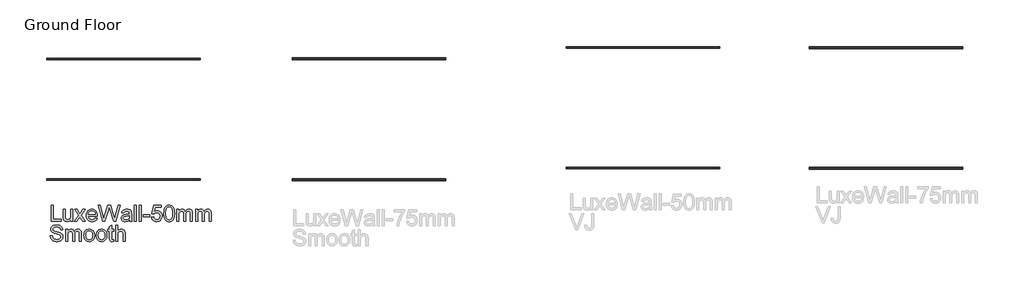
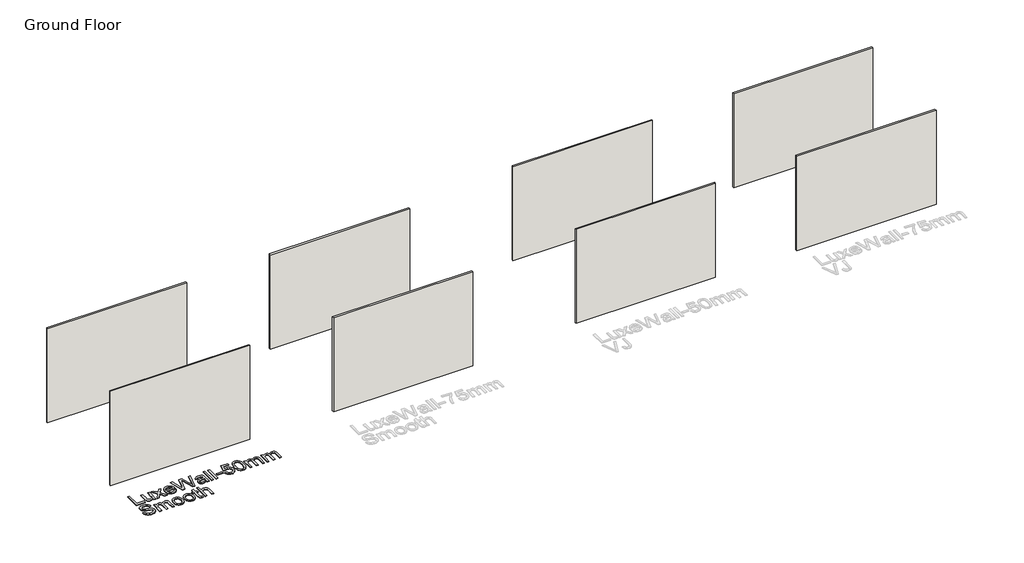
# One storey, part 1 of 3: 8 walls, 1 proxy.
"""IFC4 building model written with IfcOpenShell, lengths in millimetres."""

from ifc_helpers import new_model, si_unit, origin, origin_with_axes, place, context, project, spatial, polyline, outline, extrude, element, save

model = new_model("IFC4")

# Units and contexts
model_context = context("Model", 3, world=origin())
ifc_project = project(units=[si_unit("LENGTHUNIT", "METRE", prefix="MILLI")], contexts=[model_context])

# Site, building, storey
site = spatial("IfcSite", under=ifc_project)
building = spatial("IfcBuilding", under=site)
storey = spatial("IfcBuildingStorey", under=building, Name="Ground Floor", Elevation=0.0)

# Proxy
placement = place(None, origin())
element("IfcBuildingElementProxy", 1, Name="600mm Arial", ObjectType="600mm Arial", at=placement, inside=storey, context=model_context, shape_type="SweptSolid", body=[
    extrude(outline(polyline([(-8801.1753706, -624.7468486), (-8801.1753706, -33.9776179), (-8727.3292168, -33.9776179), (-8727.3292168, -550.9006948), (-8431.9446014, -550.9006948), (-8431.9446014, -624.7468486), (-8801.1753706, -624.7468486)])), origin_with_axes(), (0.0, 0.0, 1.0), 20.0),
    extrude(outline(polyline([(-8081.1753706, -624.7468486), (-8081.1753706, -550.179541), (-8107.8941206, -586.8411996), (-8139.0119091, -613.0280986), (-8174.528736, -628.7402381), (-8214.4446014, -633.9776179), (-8250.4121495, -630.2997333), (-8283.8917168, -619.2660794), (-8311.9806591, -602.679541), (-8331.7763322, -582.3430025), (-8345.0996495, -557.6434833), (-8353.7715245, -527.9680025), (-8358.0984476, -459.3141563), (-8358.0984476, -190.9006948), (-8284.2522937, -190.9006948), (-8284.2522937, -424.554541), (-8283.1345053, -471.2853102), (-8279.7811399, -499.8430025), (-8269.0179187, -524.9571852), (-8250.5744091, -544.0497333), (-8225.6765726, -556.1110313), (-8195.5503706, -560.131464), (-8163.6933995, -556.0208871), (-8133.8917168, -543.6891563), (-8109.3183995, -524.272089), (-8093.1465245, -498.9055025), (-8084.1681591, -464.163916), (-8081.1753706, -416.6218486), (-8081.1753706, -190.9006948), (-8007.3292168, -190.9006948), (-8007.3292168, -624.7468486), (-8081.1753706, -624.7468486)])), origin_with_axes(), (0.0, 0.0, 1.0), 20.0),
    extrude(outline(polyline([(-7951.9446014, -624.7468486), (-7794.1561399, -406.6699256), (-7942.7138322, -190.9006948), (-7853.8676783, -190.9006948), (-7782.184986, -294.7468486), (-7748.7234476, -343.7853102), (-7719.733063, -303.6891563), (-7638.0984476, -190.9006948), (-7549.2522937, -190.9006948), (-7705.309986, -406.6699256), (-7555.0215245, -624.7468486), (-7643.8676783, -624.7468486), (-7734.3003706, -493.6410794), (-7750.8869091, -469.6987717), (-7863.0984476, -624.7468486), (-7951.9446014, -624.7468486)])), origin_with_axes(), (0.0, 0.0, 1.0), 20.0),
    extrude(outline(polyline([(-7186.6561399, -495.5160794), (-7114.2522937, -504.7468486), (-7125.3535557, -533.7462477), (-7140.3400341, -559.3021371), (-7159.2117288, -581.4145169), (-7181.9686399, -600.0833871), (-7208.3763923, -614.9121131), (-7238.200611, -625.5040602), (-7271.4412961, -631.8592285), (-7308.0984476, -633.9776179), (-7353.9187601, -630.3222693), (-7394.7450822, -619.3562236), (-7430.5774139, -601.0794809), (-7461.4157553, -575.492041), (-7486.2144331, -543.3060434), (-7503.9277745, -505.2336275), (-7514.5557793, -461.2747934), (-7518.0984476, -411.429541), (-7514.5197216, -359.8940842), (-7503.7835437, -314.4704063), (-7485.8899139, -275.1585073), (-7460.8388322, -241.9583871), (-7430.0816206, -215.5821852), (-7395.0696014, -196.742041), (-7355.8027745, -185.4379544), (-7312.2811399, -181.6699256), (-7270.161248, -185.42894), (-7232.0708033, -196.7059833), (-7198.0098057, -215.5010554), (-7167.9782553, -241.8141563), (-7143.4635317, -274.9421611), (-7125.9530149, -314.1819448), (-7115.4467048, -359.5335073), (-7111.9446014, -410.9968486), (-7112.3772937, -430.9006948), (-7444.2522937, -430.9006948), (-7439.97495, -460.3688438), (-7431.4698418, -486.1771371), (-7418.7369692, -508.3255746), (-7401.7763322, -526.8141563), (-7381.5254307, -541.3904785), (-7358.9217649, -551.8021371), (-7333.9653346, -558.0491323), (-7306.6561399, -560.131464), (-7267.3532553, -556.273291), (-7234.2522937, -544.6987717), (-7207.3532553, -524.6867525), (-7186.6561399, -495.5160794)]), holes=[polyline([(-7444.2522937, -357.054541), (-7185.7907553, -357.054541), (-7195.778736, -318.0401179), (-7204.3694812, -302.6975698), (-7215.358063, -290.131464), (-7235.4962841, -274.9872333), (-7258.4109476, -264.1699256), (-7284.1020533, -257.679541), (-7312.5696014, -255.5160794), (-7338.5356471, -257.2423414), (-7362.3472456, -262.4211275), (-7384.0043971, -271.0524376), (-7403.5071014, -283.1362717), (-7419.8727865, -298.1137357), (-7432.1188803, -315.4259352), (-7440.2453827, -335.0728703), (-7444.2522937, -357.054541)])]), origin_with_axes(), (0.0, 0.0, 1.0), 20.0),
    extrude(outline(polyline([(-6923.1465245, -624.7468486), (-7084.2522937, -33.9776179), (-7008.0984476, -33.9776179), (-6914.6369091, -422.2468486), (-6885.7907553, -542.1026179), (-6854.9253706, -436.0930025), (-6737.809986, -33.9776179), (-6628.0503706, -33.9776179), (-6542.9542168, -325.4680025), (-6506.4998899, -433.6410794), (-6479.6369091, -542.1026179), (-6451.6561399, -425.7083871), (-6357.3292168, -33.9776179), (-6281.1753706, -33.9776179), (-6442.4253706, -624.7468486), (-6521.3196014, -624.7468486), (-6662.9542168, -168.9776179), (-6682.7138322, -105.3718486), (-6704.9253706, -181.9583871), (-6834.0119091, -624.7468486), (-6923.1465245, -624.7468486)])), origin_with_axes(), (0.0, 0.0, 1.0), 20.0),
    extrude(outline(polyline([(-5939.6369091, -569.3622333), (-5974.919361, -599.6146371), (-6011.247486, -619.4103102), (-6049.450611, -630.335791), (-6090.358063, -633.9776179), (-6123.2381711, -631.7871131), (-6152.0708033, -625.2155986), (-6176.8559596, -614.2630746), (-6197.5936399, -598.929541), (-6213.9683394, -580.1885554), (-6225.6645533, -559.0136756), (-6232.6822817, -535.4049015), (-6235.0215245, -509.3622333), (-6231.4878706, -478.7492525), (-6220.8869091, -450.9487717), (-6204.5347456, -427.1506948), (-6183.747486, -408.5449256), (-6159.3183995, -394.4824256), (-6132.0407553, -384.3141563), (-6068.1465245, -373.2083871), (-5992.6417168, -361.5256948), (-5940.0696014, -347.8237717), (-5939.6369091, -331.381464), (-5944.7210437, -298.4247333), (-5951.076212, -286.2192044), (-5959.9734476, -276.8622333), (-5975.3520533, -267.523291), (-5994.0840245, -260.8526179), (-6041.608063, -255.5160794), (-6085.5984476, -259.0677621), (-6116.3196014, -269.7228102), (-6137.2691206, -289.428339), (-6151.9446014, -320.131464), (-6225.7907553, -310.9006948), (-6212.9722456, -270.5160794), (-6193.8436399, -238.7853102), (-6166.6200822, -214.5184833), (-6129.5167168, -196.5256948), (-6084.138111, -185.3838679), (-6032.0888322, -181.6699256), (-5982.1669572, -184.9511756), (-5942.5936399, -194.7949256), (-5912.7558995, -209.5966083), (-5892.0407553, -227.7516563), (-5878.3027745, -250.1975698), (-5869.3965245, -277.8718486), (-5865.7907553, -342.4872333), (-5865.7907553, -434.3622333), (-5862.0407553, -562.6555025), (-5856.4878706, -594.3682429), (-5847.3292168, -624.7468486), (-5921.1753706, -624.7468486), (-5933.0022937, -599.0737717), (-5939.6369091, -569.3622333)]), holes=[polyline([(-5939.6369091, -421.6699256), (-5989.2522937, -433.9655986), (-6058.7715245, -444.3141563), (-6122.3051783, -456.2853102), (-6138.8376303, -464.4704063), (-6151.0792168, -475.756464), (-6158.6513322, -489.2780986), (-6161.1753706, -504.1699256), (-6155.6765726, -526.1290602), (-6139.1801783, -544.1218486), (-6112.0467649, -556.1290602), (-6074.6369091, -560.131464), (-6034.9734476, -555.7143967), (-5999.9253706, -542.4631948), (-5971.5119091, -522.9379544), (-5951.7522937, -499.6987717), (-5942.9902745, -475.756464), (-5940.0696014, -442.5833871), (-5939.6369091, -421.6699256)])]), origin_with_axes(), (0.0, 0.0, 1.0), 20.0),
    extrude(outline(polyline([(-5764.2522937, -624.7468486), (-5764.2522937, -33.9776179), (-5690.4061399, -33.9776179), (-5690.4061399, -624.7468486), (-5764.2522937, -624.7468486)])), origin_with_axes(), (0.0, 0.0, 1.0), 20.0),
    extrude(outline(polyline([(-5579.6369091, -624.7468486), (-5579.6369091, -33.9776179), (-5505.7907553, -33.9776179), (-5505.7907553, -624.7468486), (-5579.6369091, -624.7468486)])), origin_with_axes(), (0.0, 0.0, 1.0), 20.0),
    extrude(outline(polyline([(-5431.9446014, -449.3622333), (-5431.9446014, -375.5160794), (-5201.1753706, -375.5160794), (-5201.1753706, -449.3622333), (-5431.9446014, -449.3622333)])), origin_with_axes(), (0.0, 0.0, 1.0), 20.0),
    extrude(outline(polyline([(-5136.559986, -467.8237717), (-5062.7138322, -458.5930025), (-5057.1970053, -482.3324857), (-5049.1561399, -502.9259352), (-5038.591236, -520.373351), (-5025.5022937, -534.6747333), (-5009.9163562, -545.812053), (-4991.8604668, -553.7672813), (-4971.3346255, -558.5404184), (-4948.3388322, -560.131464), (-4920.2138322, -557.9184232), (-4895.4061399, -551.2793006), (-4873.9157553, -540.2140962), (-4855.7426783, -524.7228102), (-4841.2925581, -505.5716684), (-4830.9710437, -483.5268967), (-4824.7781351, -458.5884953), (-4822.7138322, -430.756464), (-4824.6474259, -404.4523775), (-4830.4482072, -381.068964), (-4840.1161759, -360.6062236), (-4853.6513322, -343.0641563), (-4871.098748, -328.9926419), (-4892.5034956, -318.9415602), (-4917.865575, -312.9109111), (-4947.184986, -310.9006948), (-4983.0083033, -314.1098294), (-5012.0167168, -323.7372333), (-5035.1837841, -338.4848294), (-5053.483063, -357.054541), (-5127.3292168, -347.8237717), (-5062.7138322, -43.2083871), (-4776.559986, -43.2083871), (-4776.559986, -117.054541), (-5003.0022937, -117.054541), (-5034.5888322, -279.7468486), (-5008.5281351, -261.068964), (-4981.8364283, -247.7276179), (-4954.513712, -239.7228102), (-4926.559986, -237.054541), (-4890.5969452, -240.3628342), (-4857.5635918, -250.287714), (-4827.4599259, -266.8291804), (-4800.2859476, -289.9872333), (-4777.7904548, -318.3466083), (-4761.7222456, -350.492041), (-4752.0813202, -386.4235313), (-4748.8676783, -426.1410794), (-4751.7613081, -464.398291), (-4760.4421976, -499.9872333), (-4774.9103466, -532.9079063), (-4795.1657553, -563.1603102), (-4825.8508514, -594.1428823), (-4861.6561399, -616.273291), (-4902.5816206, -629.5515361), (-4948.6272937, -633.9776179), (-4986.7357673, -631.1335674), (-5021.1573418, -622.601416), (-5051.8920173, -608.3811635), (-5078.9397937, -588.4728102), (-5101.4443009, -563.8679424), (-5118.5491687, -535.5581467), (-5130.2543971, -503.5434232), (-5136.559986, -467.8237717)])), origin_with_axes(), (0.0, 0.0, 1.0), 20.0),
    extrude(outline(polyline([(-4684.2522937, -334.1218486), (-4678.825611, -239.5605506), (-4672.0422577, -199.4598895), (-4662.545563, -164.1458871), (-4650.3760918, -133.3300818), (-4635.5744091, -106.7240121), (-4618.1405149, -84.327678), (-4598.0744091, -66.1410794), (-4575.3084836, -52.069565), (-4549.7751303, -42.0184833), (-4521.474349, -35.9878342), (-4490.4061399, -33.9776179), (-4444.9013322, -38.7372333), (-4404.1561399, -53.0160794), (-4370.0816206, -76.2552621), (-4344.5888322, -107.8958871), (-4325.3340245, -147.6675217), (-4309.9734476, -195.2997333), (-4299.9133514, -255.7865121), (-4296.559986, -334.1218486), (-4301.9325822, -428.1422813), (-4308.6483274, -468.107726), (-4318.0503706, -503.3766563), (-4330.1251904, -534.2059833), (-4344.8592649, -560.8526179), (-4362.2525942, -583.3165602), (-4382.3051783, -601.5978102), (-4405.0981471, -615.763976), (-4430.7126303, -625.882666), (-4459.1486279, -631.9538799), (-4490.4061399, -633.9776179), (-4531.0792168, -630.4619929), (-4567.1369091, -619.9151179), (-4598.5792168, -602.3369929), (-4625.4061399, -577.7276179), (-4651.1513322, -533.24144), (-4669.5407553, -477.8117525), (-4680.5744091, -411.4385554), (-4684.2522937, -334.1218486)]), holes=[polyline([(-4610.4061399, -333.9776179), (-4608.2426783, -398.1738318), (-4601.7522937, -450.1374736), (-4590.934986, -489.8685434), (-4575.7907553, -517.367041), (-4557.4734476, -536.076476), (-4537.1369091, -549.4403583), (-4514.7811399, -557.4586876), (-4490.4061399, -560.131464), (-4466.0311399, -557.4496732), (-4443.6753706, -549.4043006), (-4423.3388322, -535.9953462), (-4405.0215245, -517.2228102), (-4389.8772937, -489.6792405), (-4379.059986, -449.9571852), (-4372.5696014, -398.0566443), (-4370.4061399, -333.9776179), (-4372.497486, -271.4806227), (-4378.7715245, -220.4319448), (-4389.2282553, -180.8315842), (-4403.8676783, -152.679541), (-4421.8784956, -133.0551419), (-4442.4494091, -119.037714), (-4465.5804187, -110.6272573), (-4491.2715245, -107.8237717), (-4515.5203226, -110.2937236), (-4537.497486, -117.7035794), (-4557.2030149, -130.053339), (-4574.6369091, -147.3430025), (-4590.2859476, -177.992041), (-4601.4638322, -219.3141563), (-4608.170563, -271.3093486), (-4610.4061399, -333.9776179)])]), origin_with_axes(), (0.0, 0.0, 1.0), 20.0),
    extrude(outline(polyline([(-4213.483063, -624.7468486), (-4213.483063, -190.9006948), (-4139.6369091, -190.9006948), (-4139.6369091, -262.2949256), (-4117.4253706, -229.5004544), (-4088.8676783, -203.8093486), (-4054.9373899, -187.2047813), (-4016.608063, -181.6699256), (-3975.5383514, -187.3129544), (-3958.0593851, -194.3667405), (-3942.6176783, -204.242041), (-3918.0263322, -231.3393967), (-3901.9446014, -267.4872333), (-3875.0275341, -229.9421611), (-3844.3244091, -203.1242525), (-3809.8352264, -187.0335073), (-3771.559986, -181.6699256), (-3741.9971855, -183.9009953), (-3716.0491687, -190.5942044), (-3693.7159355, -201.749553), (-3674.997486, -217.367041), (-3660.2003105, -237.6269568), (-3649.6308995, -262.709589), (-3643.2892529, -292.6149376), (-3641.1753706, -327.3430025), (-3641.1753706, -624.7468486), (-3715.0215245, -624.7468486), (-3715.0215245, -359.0737717), (-3716.7342649, -322.240839), (-3721.872486, -297.4151179), (-3731.4998899, -280.413916), (-3746.6801783, -267.054541), (-3766.2054187, -258.4006948), (-3788.8676783, -255.5160794), (-3809.7946615, -257.3640361), (-3828.873688, -262.9079063), (-3846.1047577, -272.14769), (-3861.4878706, -285.0833871), (-3874.1396134, -302.0936035), (-3883.1765726, -323.5569448), (-3888.598748, -349.4734111), (-3890.4061399, -379.8430025), (-3890.4061399, -624.7468486), (-3964.2522937, -624.7468486), (-3964.2522937, -350.8526179), (-3968.5251303, -309.0978102), (-3981.3436399, -279.3141563), (-3991.254998, -268.9024977), (-4003.8977264, -261.4655986), (-4019.271825, -257.0034592), (-4037.3772937, -255.5160794), (-4065.826813, -259.4824256), (-4092.0407553, -271.381464), (-4113.6753706, -290.9247333), (-4128.3869091, -317.8237717), (-4136.8244091, -355.1434833), (-4139.6369091, -405.9487717), (-4139.6369091, -624.7468486), (-4213.483063, -624.7468486)])), origin_with_axes(), (0.0, 0.0, 1.0), 20.0),
    extrude(outline(polyline([(-3530.4061399, -624.7468486), (-3530.4061399, -190.9006948), (-3456.559986, -190.9006948), (-3456.559986, -262.2949256), (-3434.3484476, -229.5004544), (-3405.7907553, -203.8093486), (-3371.8604668, -187.2047813), (-3333.5311399, -181.6699256), (-3292.4614283, -187.3129544), (-3274.982462, -194.3667405), (-3259.5407553, -204.242041), (-3234.9494091, -231.3393967), (-3218.8676783, -267.4872333), (-3191.950611, -229.9421611), (-3161.247486, -203.1242525), (-3126.7583033, -187.0335073), (-3088.483063, -181.6699256), (-3058.9202625, -183.9009953), (-3032.9722456, -190.5942044), (-3010.6390125, -201.749553), (-2991.920563, -217.367041), (-2977.1233875, -237.6269568), (-2966.5539764, -262.709589), (-2960.2123298, -292.6149376), (-2958.0984476, -327.3430025), (-2958.0984476, -624.7468486), (-3031.9446014, -624.7468486), (-3031.9446014, -359.0737717), (-3033.6573418, -322.240839), (-3038.795563, -297.4151179), (-3048.4229668, -280.413916), (-3063.6032553, -267.054541), (-3083.1284956, -258.4006948), (-3105.7907553, -255.5160794), (-3126.7177384, -257.3640361), (-3145.7967649, -262.9079063), (-3163.0278346, -272.14769), (-3178.4109476, -285.0833871), (-3191.0626904, -302.0936035), (-3200.0996495, -323.5569448), (-3205.521825, -349.4734111), (-3207.3292168, -379.8430025), (-3207.3292168, -624.7468486), (-3281.1753706, -624.7468486), (-3281.1753706, -350.8526179), (-3285.4482072, -309.0978102), (-3298.2667168, -279.3141563), (-3308.178075, -268.9024977), (-3320.8208033, -261.4655986), (-3336.1949019, -257.0034592), (-3354.3003706, -255.5160794), (-3382.7498899, -259.4824256), (-3408.9638322, -271.381464), (-3430.5984476, -290.9247333), (-3445.309986, -317.8237717), (-3453.747486, -355.1434833), (-3456.559986, -405.9487717), (-3456.559986, -624.7468486), (-3530.4061399, -624.7468486)])), origin_with_axes(), (0.0, 0.0, 1.0), 20.0),
    extrude(outline(polyline([(-8828.8676783, -1150.9006948), (-8755.0215245, -1150.9006948), (-8746.5479668, -1191.8802621), (-8731.2234476, -1224.818964), (-8707.3171976, -1250.960791), (-8673.0984476, -1271.5497333), (-8631.2715245, -1284.9091083), (-8584.5407553, -1289.3622333), (-8543.3989283, -1285.990839), (-8507.3772937, -1275.8766563), (-8478.1885918, -1259.867041), (-8457.545563, -1238.8093486), (-8445.2679187, -1214.632666), (-8441.1753706, -1189.2660794), (-8444.2402745, -1164.5485313), (-8453.434986, -1143.1843486), (-8472.1128706, -1124.9571852), (-8503.6272937, -1109.6506948), (-8611.1513322, -1081.4535794), (-8681.7342649, -1062.7937236), (-8726.8965245, -1045.0353102), (-8763.6573418, -1020.1915602), (-8789.7090245, -990.0833871), (-8805.231861, -955.3598294), (-8810.4061399, -916.6699256), (-8808.8060798, -894.6792405), (-8804.0058995, -873.4187236), (-8796.005599, -852.8883751), (-8784.8051783, -833.0881948), (-8770.5308394, -814.8249736), (-8753.3087841, -798.9055025), (-8733.1390125, -785.3297813), (-8710.0215245, -774.0978102), (-8658.0623899, -759.007666), (-8600.5503706, -753.9776179), (-8538.2426783, -759.242041), (-8483.7234476, -775.0353102), (-8459.8712841, -786.7991323), (-8438.9397937, -801.0329063), (-8420.9289764, -817.7366323), (-8405.8388322, -836.9103102), (-8393.7865485, -857.9950458), (-8384.889313, -880.4319448), (-8379.1471255, -904.2210073), (-8376.559986, -929.3622333), (-8450.4061399, -929.3622333), (-8455.3460437, -905.7985313), (-8463.9638322, -885.2997333), (-8476.2595053, -867.865839), (-8492.233063, -853.4968486), (-8512.1819812, -842.2648775), (-8536.403736, -834.242041), (-8564.8983274, -829.428339), (-8597.6657553, -827.8237717), (-8631.4788562, -829.4103102), (-8660.3700822, -834.1699256), (-8684.3394331, -842.1026179), (-8703.3869091, -853.2083871), (-8717.9001303, -866.5587477), (-8728.2667168, -881.225214), (-8734.4866687, -897.2077861), (-8736.559986, -914.506464), (-8730.6825822, -942.8838679), (-8713.0503706, -965.7083871), (-8696.8604668, -975.8586275), (-8671.3676783, -986.117041), (-8592.4734476, -1006.9583871), (-8511.0551783, -1026.7540602), (-8461.8003706, -1044.0256948), (-8419.7030149, -1070.8165602), (-8403.427474, -1086.5647573), (-8390.3340245, -1103.881464), (-8380.2694211, -1122.6765361), (-8373.0804187, -1142.8598294), (-8367.3292168, -1187.3910794), (-8368.9833634, -1210.4905385), (-8373.9458033, -1232.913916), (-8382.2165365, -1254.6612116), (-8393.795563, -1275.7324256), (-8408.4800581, -1295.3117525), (-8426.0671976, -1312.5833871), (-8446.5569812, -1327.5473294), (-8469.9494091, -1340.2035794), (-8495.5638923, -1350.2681828), (-8522.7198418, -1357.4571852), (-8581.6561399, -1363.2083871), (-8619.4310798, -1361.6579063), (-8654.0058995, -1357.006464), (-8685.380599, -1349.2540602), (-8713.5551783, -1338.4006948), (-8738.7009115, -1324.428339), (-8760.9890726, -1307.318964), (-8780.4196615, -1287.0725698), (-8796.9926783, -1263.6891563), (-8810.3430389, -1237.9259352), (-8820.1056591, -1210.5401179), (-8826.2805389, -1181.5317044), (-8828.8676783, -1150.9006948)])), origin_with_axes(), (0.0, 0.0, 1.0), 20.0),
    extrude(outline(polyline([(-8265.7907553, -1353.9776179), (-8265.7907553, -920.131464), (-8191.9446014, -920.131464), (-8191.9446014, -991.5256948), (-8169.733063, -958.7312236), (-8141.1753706, -933.0401179), (-8107.2450822, -916.4355506), (-8068.9157553, -910.9006948), (-8027.8460437, -916.5437236), (-8010.3670774, -923.5975097), (-7994.9253706, -933.4728102), (-7970.3340245, -960.570166), (-7954.2522937, -996.7180025), (-7927.3352264, -959.1729304), (-7896.6321014, -932.3550217), (-7862.1429187, -916.2642765), (-7823.8676783, -910.9006948), (-7794.3048779, -913.1317645), (-7768.356861, -919.8249736), (-7746.0236279, -930.9803222), (-7727.3051783, -946.5978102), (-7712.5080029, -966.857726), (-7701.9385918, -991.9403583), (-7695.5969452, -1021.8457068), (-7693.483063, -1056.5737717), (-7693.483063, -1353.9776179), (-7767.3292168, -1353.9776179), (-7767.3292168, -1088.304541), (-7769.0419572, -1051.4716083), (-7774.1801783, -1026.6458871), (-7783.8075822, -1009.6446852), (-7798.9878706, -996.2853102), (-7818.513111, -987.631464), (-7841.1753706, -984.7468486), (-7862.1023538, -986.5948054), (-7881.1813803, -992.1386756), (-7898.41245, -1001.3784592), (-7913.795563, -1014.3141563), (-7926.4473057, -1031.3243727), (-7935.4842649, -1052.787714), (-7940.9064404, -1078.7041804), (-7942.7138322, -1109.0737717), (-7942.7138322, -1353.9776179), (-8016.559986, -1353.9776179), (-8016.559986, -1080.0833871), (-8020.8328226, -1038.3285794), (-8033.6513322, -1008.5449256), (-8043.5626904, -998.1332669), (-8056.2054187, -990.6963679), (-8071.5795173, -986.2342285), (-8089.684986, -984.7468486), (-8118.1345053, -988.7131948), (-8144.3484476, -1000.6122333), (-8165.983063, -1020.1555025), (-8180.6946014, -1047.054541), (-8189.1321014, -1084.3742525), (-8191.9446014, -1135.179541), (-8191.9446014, -1353.9776179), (-8265.7907553, -1353.9776179)])), origin_with_axes(), (0.0, 0.0, 1.0), 20.0),
    extrude(outline(polyline([(-7601.1753706, -1137.054541), (-7597.1819812, -1080.8676419), (-7585.201813, -1032.4511756), (-7565.2348658, -991.8051419), (-7537.2811399, -958.929541), (-7509.138111, -937.9169208), (-7478.0744091, -922.9079063), (-7444.0900341, -913.9024977), (-7407.184986, -910.9006948), (-7366.4443009, -914.5560434), (-7329.606861, -925.522089), (-7296.6726663, -943.7988318), (-7267.6417168, -969.3862717), (-7243.9473057, -1001.4190241), (-7227.0227264, -1039.0317044), (-7216.8679788, -1082.2243126), (-7213.483063, -1130.9968486), (-7214.9794572, -1170.5250938), (-7219.4686399, -1205.600214), (-7226.950611, -1236.2222092), (-7237.4253706, -1262.3910794), (-7250.7622096, -1284.9947453), (-7266.8304187, -1304.9211275), (-7285.629998, -1322.170226), (-7307.1609476, -1336.742041), (-7330.5849259, -1348.3210674), (-7355.0635918, -1356.5918006), (-7380.5969452, -1361.5542405), (-7407.184986, -1363.2083871), (-7448.520623, -1359.5665602), (-7485.700611, -1348.6410794), (-7518.72495, -1330.4319448), (-7547.5936399, -1304.9391563), (-7571.0356471, -1272.5954063), (-7587.779938, -1233.8333871), (-7597.8265125, -1188.6530986), (-7601.1753706, -1137.054541)]), holes=[polyline([(-7527.3292168, -1136.9103102), (-7525.1927985, -1172.7291203), (-7518.7835437, -1203.7432429), (-7508.1014524, -1229.952678), (-7493.1465245, -1251.3574256), (-7474.9554187, -1267.9845289), (-7454.5647937, -1279.8610313), (-7431.9746495, -1286.9869328), (-7407.184986, -1289.3622333), (-7382.5215245, -1286.9734111), (-7360.0215245, -1279.8069448), (-7339.684986, -1267.8628342), (-7321.5119091, -1251.1410794), (-7306.5569812, -1229.5244929), (-7295.8748899, -1202.8958871), (-7289.4656351, -1171.2552621), (-7287.3292168, -1134.6026179), (-7289.4791567, -1099.9196251), (-7295.9289764, -1069.7168006), (-7306.6786759, -1043.9941443), (-7321.7282553, -1022.7516563), (-7339.9689404, -1006.124553), (-7360.2919572, -994.2480506), (-7382.6973057, -987.1221491), (-7407.184986, -984.7468486), (-7431.9746495, -987.1131347), (-7454.5647937, -994.2119929), (-7474.9554187, -1006.0434232), (-7493.1465245, -1022.6074256), (-7508.1014524, -1043.9490722), (-7518.7835437, -1070.1134352), (-7525.1927985, -1101.1005145), (-7527.3292168, -1136.9103102)])]), origin_with_axes(), (0.0, 0.0, 1.0), 20.0),
    extrude(outline(polyline([(-7148.8676783, -1137.054541), (-7144.8742889, -1080.8676419), (-7132.8941206, -1032.4511756), (-7112.9271735, -991.8051419), (-7084.9734476, -958.929541), (-7056.8304187, -937.9169208), (-7025.7667168, -922.9079063), (-6991.7823418, -913.9024977), (-6954.8772937, -910.9006948), (-6914.1366086, -914.5560434), (-6877.2991687, -925.522089), (-6844.364974, -943.7988318), (-6815.3340245, -969.3862717), (-6791.6396134, -1001.4190241), (-6774.7150341, -1039.0317044), (-6764.5602865, -1082.2243126), (-6761.1753706, -1130.9968486), (-6762.6717649, -1170.5250938), (-6767.1609476, -1205.600214), (-6774.6429187, -1236.2222092), (-6785.1176783, -1262.3910794), (-6798.4545173, -1284.9947453), (-6814.5227264, -1304.9211275), (-6833.3223057, -1322.170226), (-6854.8532553, -1336.742041), (-6878.2772336, -1348.3210674), (-6902.7558995, -1356.5918006), (-6928.2892529, -1361.5542405), (-6954.8772937, -1363.2083871), (-6996.2129307, -1359.5665602), (-7033.3929187, -1348.6410794), (-7066.4172577, -1330.4319448), (-7095.2859476, -1304.9391563), (-7118.7279548, -1272.5954063), (-7135.4722456, -1233.8333871), (-7145.5188202, -1188.6530986), (-7148.8676783, -1137.054541)]), holes=[polyline([(-7075.0215245, -1136.9103102), (-7072.8851062, -1172.7291203), (-7066.4758514, -1203.7432429), (-7055.7937601, -1229.952678), (-7040.8388322, -1251.3574256), (-7022.6477264, -1267.9845289), (-7002.2571014, -1279.8610313), (-6979.6669572, -1286.9869328), (-6954.8772937, -1289.3622333), (-6930.2138322, -1286.9734111), (-6907.7138322, -1279.8069448), (-6887.3772937, -1267.8628342), (-6869.2042168, -1251.1410794), (-6854.2492889, -1229.5244929), (-6843.5671976, -1202.8958871), (-6837.1579428, -1171.2552621), (-6835.0215245, -1134.6026179), (-6837.1714644, -1099.9196251), (-6843.6212841, -1069.7168006), (-6854.3709836, -1043.9941443), (-6869.420563, -1022.7516563), (-6887.661248, -1006.124553), (-6907.9842649, -994.2480506), (-6930.3896134, -987.1221491), (-6954.8772937, -984.7468486), (-6979.6669572, -987.1131347), (-7002.2571014, -994.2119929), (-7022.6477264, -1006.0434232), (-7040.8388322, -1022.6074256), (-7055.7937601, -1043.9490722), (-7066.4758514, -1070.1134352), (-7072.8851062, -1101.1005145), (-7075.0215245, -1136.9103102)])]), origin_with_axes(), (0.0, 0.0, 1.0), 20.0),
    extrude(outline(polyline([(-6521.1753706, -1292.3910794), (-6511.9446014, -1356.1410794), (-6567.184986, -1363.2083871), (-6602.6296976, -1360.1434833), (-6629.059986, -1350.9487717), (-6647.7378706, -1336.7780986), (-6659.9253706, -1318.7853102), (-6666.6321014, -1287.8838679), (-6668.8676783, -1234.9872333), (-6668.8676783, -993.9776179), (-6724.2522937, -993.9776179), (-6724.2522937, -920.131464), (-6668.8676783, -920.131464), (-6668.8676783, -814.6987717), (-6595.0215245, -771.2853102), (-6595.0215245, -920.131464), (-6521.1753706, -920.131464), (-6521.1753706, -993.9776179), (-6595.0215245, -993.9776179), (-6595.0215245, -1232.8237717), (-6591.1272937, -1270.9006948), (-6578.5071014, -1284.3862717), (-6567.8520533, -1288.1182429), (-6553.3388322, -1289.3622333), (-6521.1753706, -1292.3910794)])), origin_with_axes(), (0.0, 0.0, 1.0), 20.0),
    extrude(outline(polyline([(-6447.3292168, -1353.9776179), (-6447.3292168, -763.2083871), (-6373.483063, -763.2083871), (-6373.483063, -980.4199256), (-6346.3586639, -950.0052621), (-6315.8989283, -928.2805025), (-6282.1038562, -915.2456467), (-6244.9734476, -910.9006948), (-6200.3700822, -915.6422813), (-6162.0407553, -929.867041), (-6131.8604668, -952.4571852), (-6111.7042168, -982.2949256), (-6100.3460437, -1023.2925217), (-6096.559986, -1079.3622333), (-6096.559986, -1353.9776179), (-6170.4061399, -1353.9776179), (-6170.4061399, -1087.006464), (-6171.8754908, -1062.0725698), (-6176.2835437, -1040.7805025), (-6183.6302985, -1023.1302621), (-6193.9157553, -1009.1218486), (-6206.8965245, -998.4577861), (-6222.3292168, -990.8405986), (-6240.2138322, -986.2702861), (-6260.5503706, -984.7468486), (-6291.7583033, -988.8574256), (-6321.0551783, -1001.1891563), (-6345.3220053, -1020.5521371), (-6361.4397937, -1045.756464), (-6370.4722456, -1079.2540602), (-6373.483063, -1123.4968486), (-6373.483063, -1353.9776179), (-6447.3292168, -1353.9776179)])), origin_with_axes(), (0.0, 0.0, 1.0), 20.0),
])

# Walls
element("IfcWall", 2, ObjectType="Insulated Panel-LuxeWall-Vert-Smooth-50mm-0.9M Panel-Surfmist", at=placement, inside=storey, context=model_context, shape_type="SweptSolid", body=[
    extrude(outline(polyline([(-3365.214984, 874.5608175), (-8965.214984, 874.5608175), (-8965.214984, 924.5608175), (-3365.214984, 924.5608175), (-3365.214984, 874.5608175)])), origin_with_axes(), (0.0, 0.0, 1.0), 4000.0),
])
element("IfcWall", 3, ObjectType="Insulated Panel-LuxeWall-Vert-Smooth-75mm-0.9M Panel-Surfmist", at=placement, inside=storey, context=model_context, shape_type="SweptSolid", body=[
    extrude(outline(polyline([(5599.585016, 862.0608175), (-0.414984, 862.0608175), (-0.414984, 937.0608175), (5599.585016, 937.0608175), (5599.585016, 862.0608175)])), origin_with_axes(), (0.0, 0.0, 1.0), 4000.0),
])
element("IfcWall", 4, ObjectType="Insulated Panel-LuxeWall-Vert-Smooth-50mm-1.2M Panel-Surfmist", at=placement, inside=storey, context=model_context, shape_type="SweptSolid", body=[
    extrude(outline(polyline([(-3365.214984, 5274.5608175), (-8965.214984, 5274.5608175), (-8965.214984, 5324.5608175), (-3365.214984, 5324.5608175), (-3365.214984, 5274.5608175)])), origin_with_axes(), (0.0, 0.0, 1.0), 4000.0),
])
element("IfcWall", 5, ObjectType="Insulated Panel-LuxeWall-Vert-Smooth-75mm-1.2M Panel-Surfmist", at=placement, inside=storey, context=model_context, shape_type="SweptSolid", body=[
    extrude(outline(polyline([(5599.585016, 5262.0608175), (-0.414984, 5262.0608175), (-0.414984, 5337.0608175), (5599.585016, 5337.0608175), (5599.585016, 5262.0608175)])), origin_with_axes(), (0.0, 0.0, 1.0), 4000.0),
])
element("IfcWall", 6, ObjectType="Insulated Panel-LuxeWall-Vert-VJ-50mm-0.9M Panel-Surfmist", at=placement, inside=storey, context=model_context, shape_type="SweptSolid", body=[
    extrude(outline(polyline([(15602.4040847, 1289.7171832), (10002.4040847, 1289.7171832), (10002.4040847, 1339.7171832), (15602.4040847, 1339.7171832), (15602.4040847, 1289.7171832)])), origin_with_axes(), (0.0, 0.0, 1.0), 4000.0),
])
element("IfcWall", 7, ObjectType="Insulated Panel-LuxeWall-Vert-VJ-75mm-0.9M Panel-Surfmist", at=placement, inside=storey, context=model_context, shape_type="SweptSolid", body=[
    extrude(outline(polyline([(24467.2040847, 1277.2171832), (18867.2040847, 1277.2171832), (18867.2040847, 1352.2171832), (24467.2040847, 1352.2171832), (24467.2040847, 1277.2171832)])), origin_with_axes(), (0.0, 0.0, 1.0), 4000.0),
])
element("IfcWall", 8, ObjectType="Insulated Panel-LuxeWall-Vert-VJ-50mm-1.2M Panel-Surfmist", at=placement, inside=storey, context=model_context, shape_type="SweptSolid", body=[
    extrude(outline(polyline([(15602.4040847, 5689.7171832), (10002.4040847, 5689.7171832), (10002.4040847, 5739.7171832), (15602.4040847, 5739.7171832), (15602.4040847, 5689.7171832)])), origin_with_axes(), (0.0, 0.0, 1.0), 4000.0),
])
element("IfcWall", 9, ObjectType="Insulated Panel-LuxeWall-Vert-VJ-75mm-1.2M Panel-Surfmist", at=placement, inside=storey, context=model_context, shape_type="SweptSolid", body=[
    extrude(outline(polyline([(24467.2040847, 5677.2171832), (18867.2040847, 5677.2171832), (18867.2040847, 5752.2171832), (24467.2040847, 5752.2171832), (24467.2040847, 5677.2171832)])), origin_with_axes(), (0.0, 0.0, 1.0), 4000.0),
])

save(model, "model.ifc")
